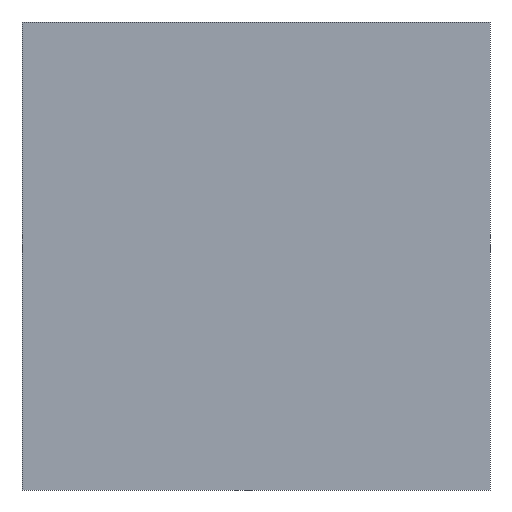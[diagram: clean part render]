
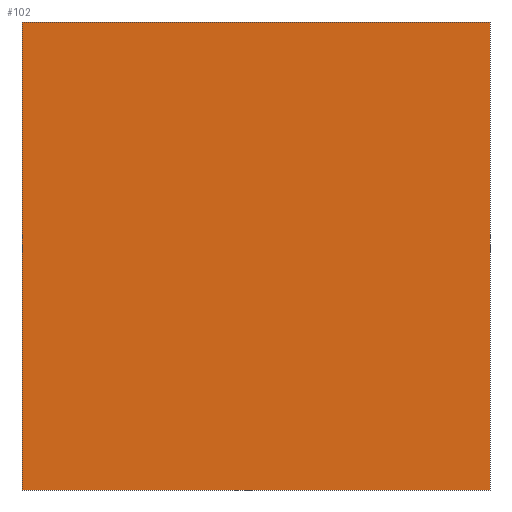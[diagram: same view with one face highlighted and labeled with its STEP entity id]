
A CAD part, front view. The second image highlights one B-rep face of the part: STEP entity #102.
In plain terms, the highlighted planar face has unit normal (0, -1, 0).
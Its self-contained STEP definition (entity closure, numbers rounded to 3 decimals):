
#2 = FACE_OUTER_BOUND ( 'NONE', #194, .T. ) ;
#15 = EDGE_CURVE ( 'NONE', #155, #110, #63, .T. ) ;
#18 = DIRECTION ( 'NONE',  ( 0., 0., -1. ) ) ;
#19 = DIRECTION ( 'NONE',  ( 0., 1., 0. ) ) ;
#21 = DIRECTION ( 'NONE',  ( -1., 0., 0. ) ) ;
#23 = CARTESIAN_POINT ( 'NONE',  ( 0., 0., 900. ) ) ;
#25 = VECTOR ( 'NONE', #150, 1000. ) ;
#33 = VERTEX_POINT ( 'NONE', #192 ) ;
#38 = CARTESIAN_POINT ( 'NONE',  ( 0., 0., 0. ) ) ;
#40 = CARTESIAN_POINT ( 'NONE',  ( 0., 0., 900. ) ) ;
#63 = LINE ( 'NONE', #143, #221 ) ;
#71 = DIRECTION ( 'NONE',  ( 0., 0., -1. ) ) ;
#74 = CARTESIAN_POINT ( 'NONE',  ( 0., 0., 900. ) ) ;
#75 = DIRECTION ( 'NONE',  ( 1., 0., 0. ) ) ;
#76 = VECTOR ( 'NONE', #75, 1000. ) ;
#90 = VERTEX_POINT ( 'NONE', #132 ) ;
#102 = ADVANCED_FACE ( 'NONE', ( #2 ), #118, .F. ) ;
#110 = VERTEX_POINT ( 'NONE', #165 ) ;
#112 = ORIENTED_EDGE ( 'NONE', *, *, #168, .T. ) ;
#113 = LINE ( 'NONE', #74, #76 ) ;
#118 = PLANE ( 'NONE',  #201 ) ;
#131 = CARTESIAN_POINT ( 'NONE',  ( -900., 0., 900. ) ) ;
#132 = CARTESIAN_POINT ( 'NONE',  ( -900., 0., 900. ) ) ;
#142 = EDGE_CURVE ( 'NONE', #90, #155, #113, .T. ) ;
#143 = CARTESIAN_POINT ( 'NONE',  ( 0., 0., 900. ) ) ;
#150 = DIRECTION ( 'NONE',  ( 1., 0., 0. ) ) ;
#152 = EDGE_CURVE ( 'NONE', #33, #110, #235, .T. ) ;
#155 = VERTEX_POINT ( 'NONE', #23 ) ;
#165 = CARTESIAN_POINT ( 'NONE',  ( 0., 0., 0. ) ) ;
#168 = EDGE_CURVE ( 'NONE', #90, #33, #222, .T. ) ;
#186 = VECTOR ( 'NONE', #71, 1000. ) ;
#192 = CARTESIAN_POINT ( 'NONE',  ( -900., 0., 0. ) ) ;
#193 = ORIENTED_EDGE ( 'NONE', *, *, #142, .F. ) ;
#194 = EDGE_LOOP ( 'NONE', ( #230, #212, #193, #112 ) ) ;
#201 = AXIS2_PLACEMENT_3D ( 'NONE', #40, #19, #21 ) ;
#212 = ORIENTED_EDGE ( 'NONE', *, *, #15, .F. ) ;
#221 = VECTOR ( 'NONE', #18, 1000. ) ;
#222 = LINE ( 'NONE', #131, #186 ) ;
#230 = ORIENTED_EDGE ( 'NONE', *, *, #152, .T. ) ;
#235 = LINE ( 'NONE', #38, #25 ) ;
